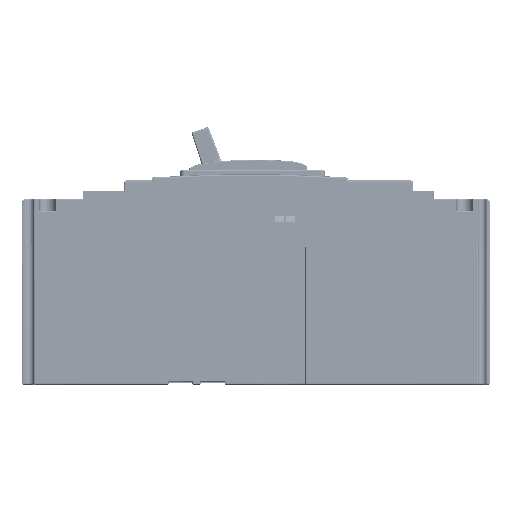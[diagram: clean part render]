
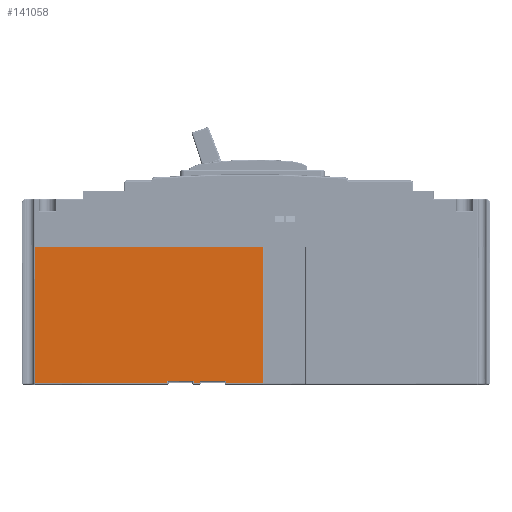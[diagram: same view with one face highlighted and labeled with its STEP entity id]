
A CAD part, left-side view. The second image highlights one B-rep face of the part: STEP entity #141058.
In plain terms, the highlighted planar face has unit normal (-1, 0, 0).
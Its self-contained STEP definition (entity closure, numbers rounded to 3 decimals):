
#141058=ADVANCED_FACE('',(#178362),#159907,.T.);
#159907=PLANE('',#498564);
#178362=FACE_OUTER_BOUND('',#200369,.T.);
#200369=EDGE_LOOP('',(#263944,#263945,#263946,#263947,#263948,#263949,#263950,
#263951,#263952,#263953,#263954,#263955));
#263944=ORIENTED_EDGE('',*,*,#372610,.T.);
#263945=ORIENTED_EDGE('',*,*,#372611,.T.);
#263946=ORIENTED_EDGE('',*,*,#372612,.T.);
#263947=ORIENTED_EDGE('',*,*,#372613,.T.);
#263948=ORIENTED_EDGE('',*,*,#372614,.T.);
#263949=ORIENTED_EDGE('',*,*,#372615,.T.);
#263950=ORIENTED_EDGE('',*,*,#372616,.T.);
#263951=ORIENTED_EDGE('',*,*,#372617,.T.);
#263952=ORIENTED_EDGE('',*,*,#372618,.T.);
#263953=ORIENTED_EDGE('',*,*,#372619,.T.);
#263954=ORIENTED_EDGE('',*,*,#372609,.T.);
#263955=ORIENTED_EDGE('',*,*,#372508,.F.);
#330206=VERTEX_POINT('',#669347);
#330207=VERTEX_POINT('',#669349);
#330298=VERTEX_POINT('',#669564);
#330299=VERTEX_POINT('',#669568);
#330300=VERTEX_POINT('',#669570);
#330301=VERTEX_POINT('',#669572);
#330302=VERTEX_POINT('',#669574);
#330303=VERTEX_POINT('',#669576);
#330304=VERTEX_POINT('',#669578);
#330305=VERTEX_POINT('',#669580);
#330306=VERTEX_POINT('',#669582);
#330307=VERTEX_POINT('',#669584);
#372508=EDGE_CURVE('',#330206,#330207,#420248,.T.);
#372609=EDGE_CURVE('',#330298,#330207,#420306,.T.);
#372610=EDGE_CURVE('',#330206,#330299,#420307,.T.);
#372611=EDGE_CURVE('',#330299,#330300,#420308,.T.);
#372612=EDGE_CURVE('',#330300,#330301,#420309,.T.);
#372613=EDGE_CURVE('',#330301,#330302,#420310,.T.);
#372614=EDGE_CURVE('',#330302,#330303,#420311,.T.);
#372615=EDGE_CURVE('',#330303,#330304,#420312,.T.);
#372616=EDGE_CURVE('',#330304,#330305,#420313,.T.);
#372617=EDGE_CURVE('',#330305,#330306,#420314,.T.);
#372618=EDGE_CURVE('',#330306,#330307,#420315,.T.);
#372619=EDGE_CURVE('',#330307,#330298,#420316,.T.);
#420248=LINE('',#669348,#464301);
#420306=LINE('',#669565,#464359);
#420307=LINE('',#669567,#464360);
#420308=LINE('',#669569,#464361);
#420309=LINE('',#669571,#464362);
#420310=LINE('',#669573,#464363);
#420311=LINE('',#669575,#464364);
#420312=LINE('',#669577,#464365);
#420313=LINE('',#669579,#464366);
#420314=LINE('',#669581,#464367);
#420315=LINE('',#669583,#464368);
#420316=LINE('',#669585,#464369);
#464301=VECTOR('',#561384,1.);
#464359=VECTOR('',#561540,1.);
#464360=VECTOR('',#561543,1.);
#464361=VECTOR('',#561544,1.);
#464362=VECTOR('',#561545,1.);
#464363=VECTOR('',#561546,1.);
#464364=VECTOR('',#561547,1.);
#464365=VECTOR('',#561548,1.);
#464366=VECTOR('',#561549,1.);
#464367=VECTOR('',#561550,1.);
#464368=VECTOR('',#561551,1.);
#464369=VECTOR('',#561552,1.);
#498564=AXIS2_PLACEMENT_3D('',#669586,#561553,#561554);
#561384=DIRECTION('',(0.,-1.,0.));
#561540=DIRECTION('',(0.,0.,1.));
#561543=DIRECTION('',(0.,0.,-1.));
#561544=DIRECTION('',(0.,-1.,0.));
#561545=DIRECTION('',(0.,0.,1.));
#561546=DIRECTION('',(0.,-1.,0.));
#561547=DIRECTION('',(0.,0.,-1.));
#561548=DIRECTION('',(0.,-1.,0.));
#561549=DIRECTION('',(0.,0.,1.));
#561550=DIRECTION('',(0.,-1.,0.));
#561551=DIRECTION('',(0.,0.,-1.));
#561552=DIRECTION('',(0.,-1.,0.));
#561553=DIRECTION('',(-1.,0.,0.));
#561554=DIRECTION('',(0.,0.,1.));
#669347=CARTESIAN_POINT('',(2786.571,148.986,114.41));
#669348=CARTESIAN_POINT('',(2786.571,148.986,114.41));
#669349=CARTESIAN_POINT('',(2786.571,-16.598,114.41));
#669564=CARTESIAN_POINT('',(2786.571,-16.598,15.41));
#669565=CARTESIAN_POINT('',(2786.571,-16.598,15.41));
#669567=CARTESIAN_POINT('',(2786.571,148.986,114.41));
#669568=CARTESIAN_POINT('',(2786.571,148.986,15.41));
#669569=CARTESIAN_POINT('',(2786.571,148.986,15.41));
#669570=CARTESIAN_POINT('',(2786.571,52.702,15.41));
#669571=CARTESIAN_POINT('',(2786.571,52.702,15.41));
#669572=CARTESIAN_POINT('',(2786.571,52.702,17.41));
#669573=CARTESIAN_POINT('',(2786.571,52.702,17.41));
#669574=CARTESIAN_POINT('',(2786.571,33.502,17.41));
#669575=CARTESIAN_POINT('',(2786.571,33.502,17.41));
#669576=CARTESIAN_POINT('',(2786.571,33.502,15.41));
#669577=CARTESIAN_POINT('',(2786.571,33.502,15.41));
#669578=CARTESIAN_POINT('',(2786.571,29.202,15.41));
#669579=CARTESIAN_POINT('',(2786.571,29.202,15.41));
#669580=CARTESIAN_POINT('',(2786.571,29.202,17.41));
#669581=CARTESIAN_POINT('',(2786.571,29.202,17.41));
#669582=CARTESIAN_POINT('',(2786.571,10.002,17.41));
#669583=CARTESIAN_POINT('',(2786.571,10.002,17.41));
#669584=CARTESIAN_POINT('',(2786.571,10.002,15.41));
#669585=CARTESIAN_POINT('',(2786.571,10.002,15.41));
#669586=CARTESIAN_POINT('',(2786.571,-1.798,114.41));
